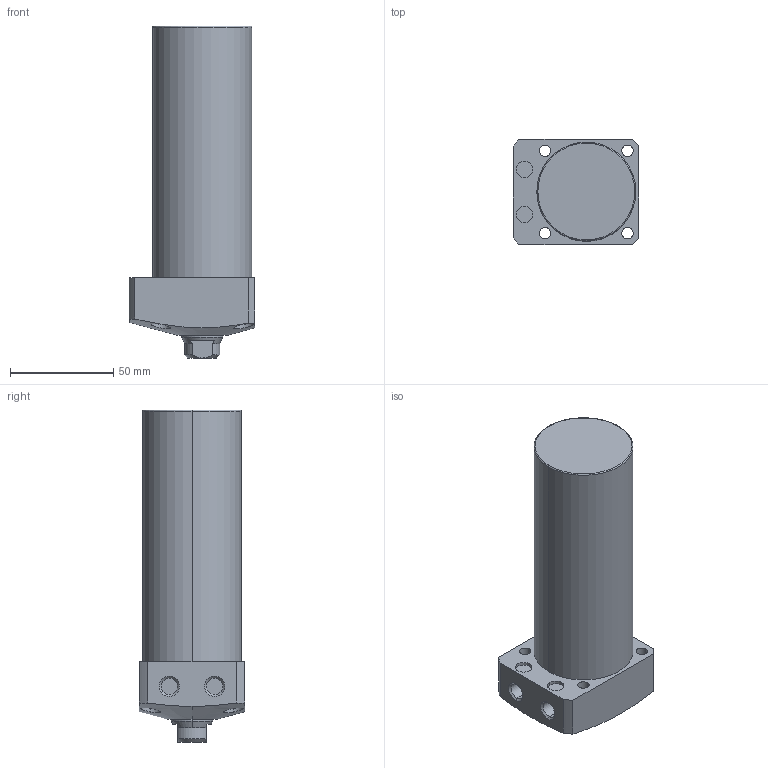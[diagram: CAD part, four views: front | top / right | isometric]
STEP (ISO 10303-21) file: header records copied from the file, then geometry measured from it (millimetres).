
FILE_DESCRIPTION (( 'STEP AP203' ), '1' );
FILE_NAME ('CLL048-CA-095.STEP', '2017-05-17T10:46:54', ( '' ), ( '' ), 'SwSTEP 2.0', 'SolidWorks 2015', '' );
FILE_SCHEMA (( 'CONFIG_CONTROL_DESIGN' ));
Length unit declared in the file: millimetre
Products named in the file (1): CLL048-CA-095
Bounding box: 61 x 51 x 161 mm (x, y, z)
Volume: 294966.4 mm3; surface area: 33173.6 mm2
Topology: 1 solids, 1 shells, 74 faces, 170 edges, 107 vertices
Faces by surface type: cylinder 35, plane 22, cone 15, torus 2
Entity records: 2535 total; most frequent: CARTESIAN_POINT 748, DIRECTION 374, ORIENTED_EDGE 336, EDGE_CURVE 168, AXIS2_PLACEMENT_3D 155, VERTEX_POINT 107, EDGE_LOOP 93, CIRCLE 80
